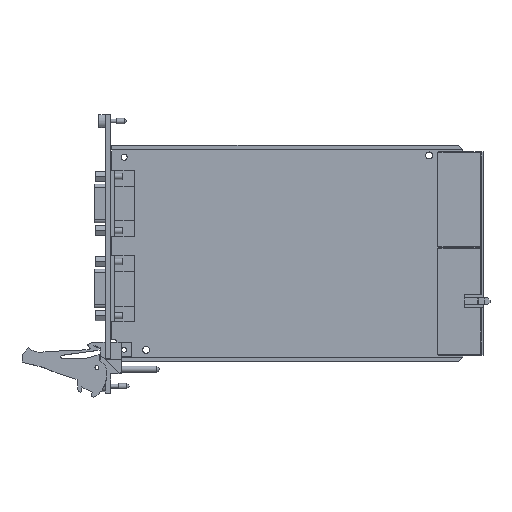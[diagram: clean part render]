
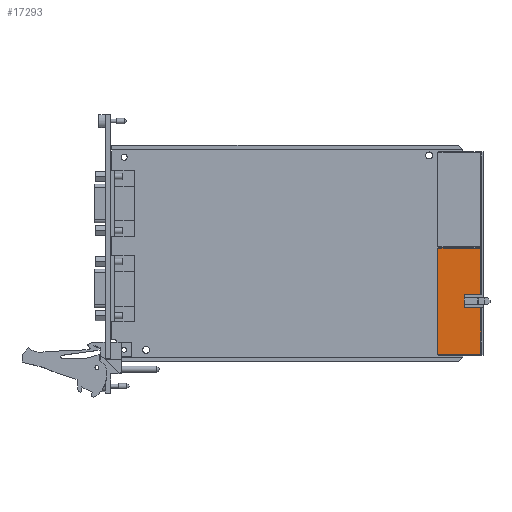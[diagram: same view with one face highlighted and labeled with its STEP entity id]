
A CAD part, top view. The second image highlights one B-rep face of the part: STEP entity #17293.
In plain terms, the highlighted planar face has unit normal (0, 0, 1).
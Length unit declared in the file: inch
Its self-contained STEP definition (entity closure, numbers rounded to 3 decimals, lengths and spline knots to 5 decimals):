
#5461=DIRECTION('',(1.,0.,0.));
#5462=VECTOR('',#5461,0.77756);
#5463=CARTESIAN_POINT('',(5.84533,-3.79969,
0.35728));
#5464=LINE('',#5463,#5462);
#5473=DIRECTION('',(1.,0.,0.));
#5474=VECTOR('',#5473,0.77756);
#5475=CARTESIAN_POINT('',(5.84533,-1.87055,
0.35728));
#5476=LINE('',#5475,#5474);
#5797=DIRECTION('',(0.,1.,0.));
#5798=VECTOR('',#5797,0.84457);
#5799=CARTESIAN_POINT('',(6.62289,-3.79969,
0.35728));
#5800=LINE('',#5799,#5798);
#5801=DIRECTION('',(-1.,0.,0.));
#5802=VECTOR('',#5801,0.30315);
#5803=CARTESIAN_POINT('',(6.62289,-2.71512,
0.35728));
#5804=LINE('',#5803,#5802);
#5805=DIRECTION('',(0.,-1.,0.));
#5806=VECTOR('',#5805,0.06);
#5807=CARTESIAN_POINT('',(6.31974,-2.71512,
0.35728));
#5808=LINE('',#5807,#5806);
#5809=DIRECTION('',(0.,-1.,0.));
#5810=VECTOR('',#5809,0.06);
#5811=CARTESIAN_POINT('',(6.31974,-2.89512,
0.35728));
#5812=LINE('',#5811,#5810);
#5813=DIRECTION('',(-1.,0.,0.));
#5814=VECTOR('',#5813,0.30315);
#5815=CARTESIAN_POINT('',(6.62289,-2.95512,
0.35728));
#5816=LINE('',#5815,#5814);
#5817=DIRECTION('',(0.,1.,0.));
#5818=VECTOR('',#5817,1.92913);
#5819=CARTESIAN_POINT('',(5.84533,-3.79969,
0.35728));
#5820=LINE('',#5819,#5818);
#5865=DIRECTION('',(0.,1.,0.));
#5866=VECTOR('',#5865,0.12);
#5867=CARTESIAN_POINT('',(6.31974,-2.89512,
0.35728));
#5868=LINE('',#5867,#5866);
#5889=DIRECTION('',(0.,1.,0.));
#5890=VECTOR('',#5889,0.84457);
#5891=CARTESIAN_POINT('',(6.62289,-2.71512,
0.35728));
#5892=LINE('',#5891,#5890);
#7527=CARTESIAN_POINT('',(5.84533,-3.79969,
0.35728));
#7528=CARTESIAN_POINT('',(6.62289,-3.79969,
0.35728));
#7529=VERTEX_POINT('',#7527);
#7530=VERTEX_POINT('',#7528);
#7531=CARTESIAN_POINT('',(5.84533,-1.87055,
0.35728));
#7532=CARTESIAN_POINT('',(6.62289,-1.87055,
0.35728));
#7533=VERTEX_POINT('',#7531);
#7534=VERTEX_POINT('',#7532);
#7543=CARTESIAN_POINT('',(6.62289,-2.71512,
0.35728));
#7544=CARTESIAN_POINT('',(6.31974,-2.71512,
0.35728));
#7545=VERTEX_POINT('',#7543);
#7546=VERTEX_POINT('',#7544);
#7547=CARTESIAN_POINT('',(6.31974,-2.77512,
0.35728));
#7548=VERTEX_POINT('',#7547);
#7549=CARTESIAN_POINT('',(6.62289,-2.95512,
0.35728));
#7550=CARTESIAN_POINT('',(6.31974,-2.95512,
0.35728));
#7551=VERTEX_POINT('',#7549);
#7552=VERTEX_POINT('',#7550);
#7553=CARTESIAN_POINT('',(6.31974,-2.89512,
0.35728));
#7554=VERTEX_POINT('',#7553);
#17272=CARTESIAN_POINT('',(5.84533,-3.79969,
0.35728));
#17273=DIRECTION('',(0.,0.,1.));
#17274=DIRECTION('',(1.,0.,0.));
#17275=AXIS2_PLACEMENT_3D('',#17272,#17273,#17274);
#17276=PLANE('',#17275);
#17278=ORIENTED_EDGE('',*,*,#17277,.T.);
#17280=ORIENTED_EDGE('',*,*,#17279,.T.);
#17282=ORIENTED_EDGE('',*,*,#17281,.F.);
#17283=ORIENTED_EDGE('',*,*,#17211,.T.);
#17284=ORIENTED_EDGE('',*,*,#17228,.F.);
#17285=ORIENTED_EDGE('',*,*,#17267,.F.);
#17286=ORIENTED_EDGE('',*,*,#16764,.F.);
#17287=ORIENTED_EDGE('',*,*,#16782,.T.);
#17288=ORIENTED_EDGE('',*,*,#16800,.T.);
#17290=ORIENTED_EDGE('',*,*,#17289,.F.);
#17291=EDGE_LOOP('',(#17278,#17280,#17282,#17283,#17284,#17285,#17286,#17287,
#17288,#17290));
#17292=FACE_OUTER_BOUND('',#17291,.F.);
#17293=ADVANCED_FACE('',(#17292),#17276,.T.);
#16764=EDGE_CURVE('',#7529,#7530,#5464,.T.);
#16782=EDGE_CURVE('',#7529,#7533,#5820,.T.);
#16800=EDGE_CURVE('',#7533,#7534,#5476,.T.);
#17211=EDGE_CURVE('',#7554,#7552,#5812,.T.);
#17228=EDGE_CURVE('',#7551,#7552,#5816,.T.);
#17267=EDGE_CURVE('',#7530,#7551,#5800,.T.);
#17277=EDGE_CURVE('',#7545,#7546,#5804,.T.);
#17279=EDGE_CURVE('',#7546,#7548,#5808,.T.);
#17281=EDGE_CURVE('',#7554,#7548,#5868,.T.);
#17289=EDGE_CURVE('',#7545,#7534,#5892,.T.);
